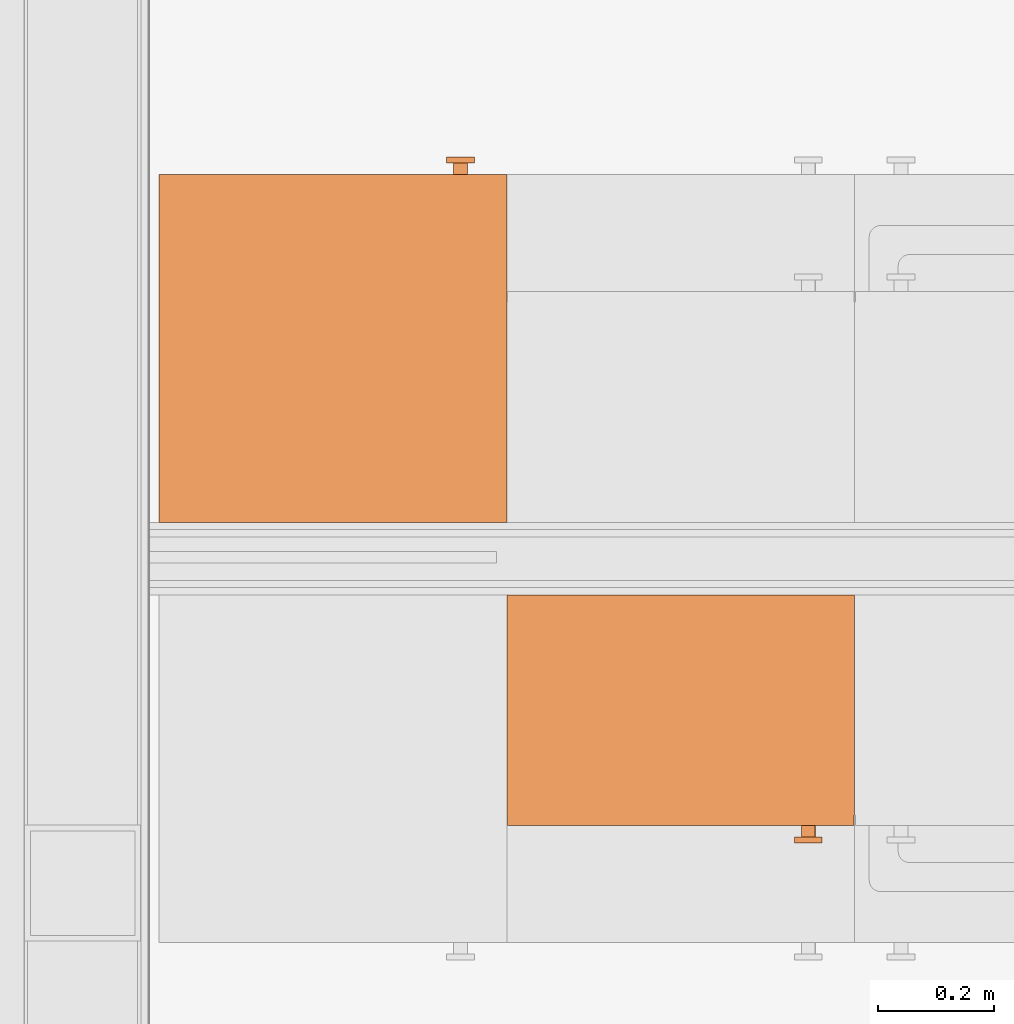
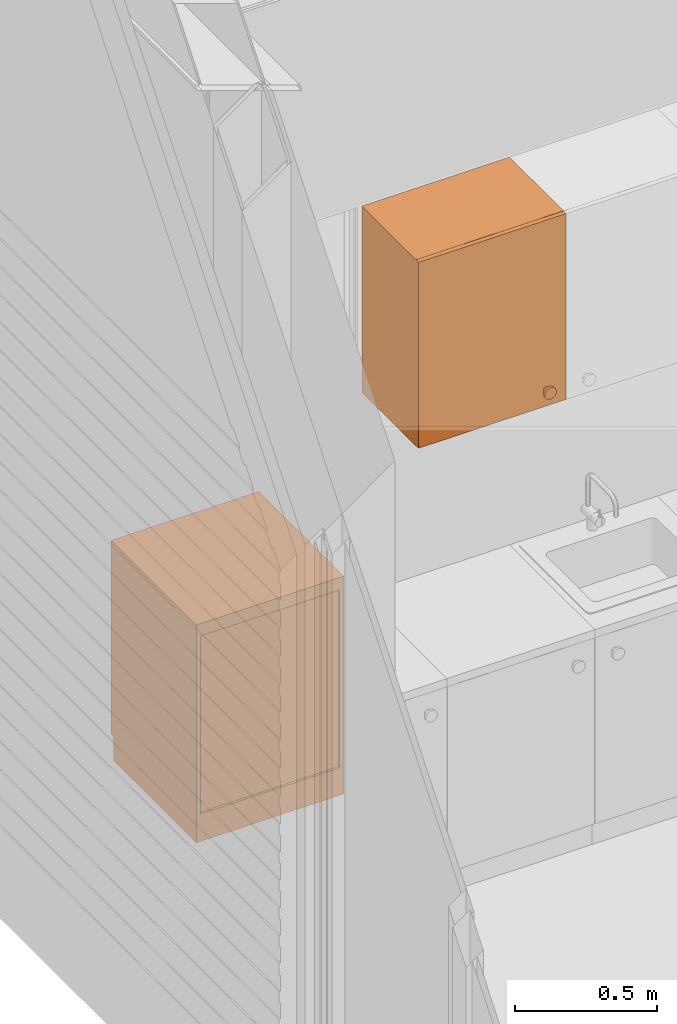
# One storey, part 128 of 165: 2 proxies.
"""IFC2X3 building model written with IfcOpenShell, lengths in millimetres."""

from ifc_helpers import new_model, entity, si_unit, converted_unit, derived_unit, money_unit, direction, frame, origin_with_axes, place, context, subcontext, project, spatial, faceted_brep, source, transform, mapped, type_object, type_shapes, element, save


model = new_model("IFC2X3")

# Units and contexts
model_context = context("Model", 3, precision=0.01, world=origin_with_axes(), true_north=direction((0.0, 1.0)))
body_context = subcontext(model_context, "Body", "Model", "MODEL_VIEW")
ifc_project = project(units=[si_unit("LENGTHUNIT", "METRE", prefix="MILLI"), si_unit("AREAUNIT", "SQUARE_METRE"), si_unit("VOLUMEUNIT", "CUBIC_METRE"), converted_unit("PLANEANGLEUNIT", "DEGREE", entity("IfcPlaneAngleMeasure", 0.0174532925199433), si_unit("PLANEANGLEUNIT", "RADIAN"), dimensions=[0, 0, 0, 0, 0, 0, 0]), money_unit("EUR"), converted_unit("TIMEUNIT", "Year", entity("IfcTimeMeasure", 31556926.0), si_unit("TIMEUNIT", "SECOND"), dimensions=[0, 0, 1, 0, 0, 0, 0]), si_unit("MASSUNIT", "GRAM", prefix="KILO"), si_unit("THERMODYNAMICTEMPERATUREUNIT", "DEGREE_CELSIUS"), si_unit("LUMINOUSINTENSITYUNIT", "LUMEN"), si_unit("ENERGYUNIT", "JOULE", prefix="MEGA"), derived_unit("THERMALCONDUCTANCEUNIT", [(si_unit("POWERUNIT", "WATT"), 1), (si_unit("LENGTHUNIT", "METRE"), -1), (si_unit("THERMODYNAMICTEMPERATUREUNIT", "KELVIN"), -1)]), derived_unit("SPECIFICHEATCAPACITYUNIT", [(si_unit("ENERGYUNIT", "JOULE"), 1), (si_unit("MASSUNIT", "GRAM", prefix="KILO"), -1), (si_unit("THERMODYNAMICTEMPERATUREUNIT", "KELVIN"), -1)]), derived_unit("MASSDENSITYUNIT", [(si_unit("MASSUNIT", "GRAM", prefix="KILO"), 1), (si_unit("VOLUMEUNIT", "CUBIC_METRE"), -1)])], contexts=[model_context])

# Site, building, storey
site_placement = place(None, origin_with_axes())
site = spatial("IfcSite", under=ifc_project, at=site_placement, Name="Site", CompositionType="ELEMENT")
building_placement = place(site_placement, origin_with_axes())
building = spatial("IfcBuilding", under=site, at=building_placement, Name="Naam gebouw", CompositionType="ELEMENT")
storey_placement = place(building_placement, origin_with_axes())
storey = spatial("IfcBuildingStorey", under=building, at=storey_placement, Name="Begane grond", CompositionType="ELEMENT", Elevation=0.0)

# Proxies
building_element_proxy_type_1 = type_object("IfcBuildingElementProxyType", Name="Onderkast recht 26", PredefinedType="NOTDEFINED")
shared_shape_1 = source(origin_with_axes(), body_context, "Body", "Brep", [
    faceted_brep([(0.0, -600.0, 900.0), (0.0, -600.0, 935.0), (-600.0, -600.0, 935.0), (-600.0, -600.0, 900.0), (0.0, 0.0, 900.0), (0.0, 0.0, 935.0), (-600.0, 0.0, 935.0), (-600.0, 0.0, 900.0)], [[[0, 1, 2, 3]], [[4, 5, 1, 0]], [[1, 5, 6, 2]], [[3, 2, 6, 7]], [[0, 3, 7, 4]], [[7, 6, 5, 4]]]),
    faceted_brep([(-531.8176930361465, -600.0, 816.9162218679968), (-532.0, -600.0, 819.0), (-531.8176930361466, -600.0, 821.0837781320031), (-531.2763114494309, -600.0, 823.1042417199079), (-530.3923048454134, -600.0, 825.0), (-529.1925333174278, -600.0, 826.7134513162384), (-527.7134513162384, -600.0, 828.1925333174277), (-526.0, -600.0, 829.3923048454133), (-524.104241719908, -600.0, 830.2763114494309), (-522.0837781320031, -600.0, 830.8176930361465), (-520.0, -600.0, 831.0), (-517.9162218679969, -600.0, 830.8176930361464), (-515.8957582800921, -600.0, 830.2763114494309), (-514.0, -600.0, 829.3923048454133), (-512.2865486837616, -600.0, 828.1925333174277), (-510.8074666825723, -600.0, 826.7134513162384), (-509.6076951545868, -600.0, 825.0), (-508.7236885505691, -600.0, 823.1042417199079), (-508.1823069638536, -600.0, 821.0837781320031), (-508.0, -600.0, 819.0), (-508.1823069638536, -600.0, 816.9162218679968), (-508.7236885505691, -600.0, 814.895758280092), (-509.6076951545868, -600.0, 813.0), (-510.8074666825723, -600.0, 811.2865486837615), (-512.2865486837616, -600.0, 809.8074666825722), (-514.0, -600.0, 808.6076951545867), (-515.8957582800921, -600.0, 807.7236885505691), (-517.9162218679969, -600.0, 807.1823069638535), (-520.0, -600.0, 806.9999999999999), (-522.0837781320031, -600.0, 807.1823069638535), (-524.104241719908, -600.0, 807.7236885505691), (-526.0, -600.0, 808.6076951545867), (-527.7134513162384, -600.0, 809.8074666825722), (-529.1925333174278, -600.0, 811.2865486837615), (-530.3923048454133, -600.0, 813.0), (-531.2763114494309, -600.0, 814.895758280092), (-531.8176930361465, -620.0, 816.9162218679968), (-532.0, -620.0, 819.0), (-531.8176930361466, -620.0, 821.0837781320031), (-531.2763114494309, -620.0, 823.1042417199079), (-530.3923048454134, -620.0, 825.0), (-529.1925333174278, -620.0, 826.7134513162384), (-527.7134513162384, -620.0, 828.1925333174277), (-526.0, -620.0, 829.3923048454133), (-524.104241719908, -620.0, 830.2763114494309), (-522.0837781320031, -620.0, 830.8176930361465), (-520.0, -620.0, 831.0), (-517.9162218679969, -620.0, 830.8176930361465), (-515.8957582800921, -620.0, 830.2763114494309), (-514.0, -620.0, 829.3923048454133), (-512.2865486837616, -620.0, 828.1925333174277), (-510.8074666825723, -620.0, 826.7134513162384), (-509.6076951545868, -620.0, 825.0), (-508.7236885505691, -620.0, 823.1042417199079), (-508.1823069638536, -620.0, 821.0837781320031), (-508.0, -620.0, 819.0), (-508.1823069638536, -620.0, 816.9162218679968), (-508.7236885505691, -620.0, 814.895758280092), (-509.6076951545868, -620.0, 813.0), (-510.8074666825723, -620.0, 811.2865486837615), (-512.2865486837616, -620.0, 809.8074666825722), (-514.0, -620.0, 808.6076951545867), (-515.8957582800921, -620.0, 807.7236885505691), (-517.9162218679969, -620.0, 807.1823069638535), (-520.0, -620.0, 806.9999999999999), (-522.0837781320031, -620.0, 807.1823069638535), (-524.104241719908, -620.0, 807.7236885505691), (-526.0, -620.0, 808.6076951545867), (-527.7134513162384, -620.0, 809.8074666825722), (-529.1925333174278, -620.0, 811.2865486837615), (-530.3923048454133, -620.0, 813.0), (-531.2763114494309, -620.0, 814.895758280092)], [[[0, 1, 2, 3, 4, 5, 6, 7, 8, 9, 10, 11, 12, 13, 14, 15, 16, 17, 18, 19, 20, 21, 22, 23, 24, 25, 26, 27, 28, 29, 30, 31, 32, 33, 34, 35]], [[0, 36, 37, 1]], [[1, 37, 38, 2]], [[2, 38, 39, 3]], [[3, 39, 40, 4]], [[4, 40, 41, 5]], [[5, 41, 42, 6]], [[6, 42, 43, 7]], [[7, 43, 44, 8]], [[8, 44, 45, 9]], [[9, 45, 46, 10]], [[10, 46, 47, 11]], [[11, 47, 48, 12]], [[12, 48, 49, 13]], [[13, 49, 50, 14]], [[14, 50, 51, 15]], [[15, 51, 52, 16]], [[16, 52, 53, 17]], [[17, 53, 54, 18]], [[18, 54, 55, 19]], [[19, 55, 56, 20]], [[20, 56, 57, 21]], [[21, 57, 58, 22]], [[22, 58, 59, 23]], [[23, 59, 60, 24]], [[24, 60, 61, 25]], [[25, 61, 62, 26]], [[26, 62, 63, 27]], [[27, 63, 64, 28]], [[28, 64, 65, 29]], [[29, 65, 66, 30]], [[30, 66, 67, 31]], [[31, 67, 68, 32]], [[32, 68, 69, 33]], [[33, 69, 70, 34]], [[34, 70, 71, 35]], [[35, 71, 36, 0]], [[36, 71, 70, 69, 68, 67, 66, 65, 64, 63, 62, 61, 60, 59, 58, 57, 56, 55, 54, 53, 52, 51, 50, 49, 48, 47, 46, 45, 44, 43, 42, 41, 40, 39, 38, 37]]]),
    faceted_brep([(-543.635386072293, -620.0, 814.8324437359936), (-544.0, -620.0, 819.0), (-543.635386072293, -620.0, 823.1675562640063), (-542.5526228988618, -620.0, 827.2084834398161), (-540.7846096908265, -620.0, 831.0), (-538.3850666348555, -620.0, 834.4269026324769), (-535.426902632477, -620.0, 837.3850666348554), (-532.0, -620.0, 839.7846096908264), (-528.2084834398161, -620.0, 841.5526228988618), (-524.1675562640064, -620.0, 842.6353860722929), (-520.0, -620.0, 843.0), (-515.8324437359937, -620.0, 842.6353860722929), (-511.7915165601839, -620.0, 841.5526228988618), (-508.0, -620.0, 839.7846096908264), (-504.5730973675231, -620.0, 837.3850666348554), (-501.6149333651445, -620.0, 834.4269026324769), (-499.2153903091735, -620.0, 831.0), (-497.4473771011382, -620.0, 827.2084834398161), (-496.364613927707, -620.0, 823.1675562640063), (-496.0000000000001, -620.0, 819.0), (-496.364613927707, -620.0, 814.8324437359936), (-497.4473771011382, -620.0, 810.7915165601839), (-499.2153903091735, -620.0, 806.9999999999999), (-501.6149333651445, -620.0, 803.573097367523), (-504.5730973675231, -620.0, 800.6149333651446), (-508.0, -620.0, 798.2153903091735), (-511.7915165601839, -620.0, 796.4473771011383), (-515.8324437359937, -620.0, 795.364613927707), (-520.0, -620.0, 794.9999999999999), (-524.1675562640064, -620.0, 795.364613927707), (-528.2084834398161, -620.0, 796.4473771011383), (-532.0, -620.0, 798.2153903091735), (-535.426902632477, -620.0, 800.6149333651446), (-538.3850666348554, -620.0, 803.573097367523), (-540.7846096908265, -620.0, 806.9999999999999), (-542.5526228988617, -620.0, 810.7915165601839), (-543.635386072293, -630.0, 814.8324437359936), (-544.0, -630.0, 819.0), (-543.635386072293, -630.0, 823.1675562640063), (-542.5526228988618, -630.0, 827.2084834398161), (-540.7846096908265, -630.0, 831.0), (-538.3850666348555, -630.0, 834.4269026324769), (-535.426902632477, -630.0, 837.3850666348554), (-532.0, -630.0, 839.7846096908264), (-528.2084834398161, -630.0, 841.5526228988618), (-524.1675562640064, -630.0, 842.6353860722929), (-520.0, -630.0, 843.0), (-515.8324437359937, -630.0, 842.6353860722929), (-511.7915165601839, -630.0, 841.5526228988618), (-508.0, -630.0, 839.7846096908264), (-504.5730973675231, -630.0, 837.3850666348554), (-501.6149333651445, -630.0, 834.4269026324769), (-499.2153903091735, -630.0, 831.0), (-497.4473771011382, -630.0, 827.2084834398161), (-496.364613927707, -630.0, 823.1675562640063), (-496.0000000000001, -630.0, 819.0), (-496.364613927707, -630.0, 814.8324437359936), (-497.4473771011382, -630.0, 810.7915165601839), (-499.2153903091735, -630.0, 806.9999999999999), (-501.6149333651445, -630.0, 803.573097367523), (-504.5730973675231, -630.0, 800.6149333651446), (-508.0, -630.0, 798.2153903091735), (-511.7915165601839, -630.0, 796.4473771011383), (-515.8324437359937, -630.0, 795.364613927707), (-520.0, -630.0, 794.9999999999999), (-524.1675562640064, -630.0, 795.364613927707), (-528.2084834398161, -630.0, 796.4473771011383), (-532.0, -630.0, 798.2153903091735), (-535.426902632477, -630.0, 800.6149333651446), (-538.3850666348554, -630.0, 803.573097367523), (-540.7846096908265, -630.0, 806.9999999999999), (-542.5526228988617, -630.0, 810.7915165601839)], [[[0, 1, 2, 3, 4, 5, 6, 7, 8, 9, 10, 11, 12, 13, 14, 15, 16, 17, 18, 19, 20, 21, 22, 23, 24, 25, 26, 27, 28, 29, 30, 31, 32, 33, 34, 35]], [[0, 36, 37, 1]], [[1, 37, 38, 2]], [[2, 38, 39, 3]], [[3, 39, 40, 4]], [[4, 40, 41, 5]], [[5, 41, 42, 6]], [[6, 42, 43, 7]], [[7, 43, 44, 8]], [[8, 44, 45, 9]], [[9, 45, 46, 10]], [[10, 46, 47, 11]], [[11, 47, 48, 12]], [[12, 48, 49, 13]], [[13, 49, 50, 14]], [[14, 50, 51, 15]], [[15, 51, 52, 16]], [[16, 52, 53, 17]], [[17, 53, 54, 18]], [[18, 54, 55, 19]], [[19, 55, 56, 20]], [[20, 56, 57, 21]], [[21, 57, 58, 22]], [[22, 58, 59, 23]], [[23, 59, 60, 24]], [[24, 60, 61, 25]], [[25, 61, 62, 26]], [[26, 62, 63, 27]], [[27, 63, 64, 28]], [[28, 64, 65, 29]], [[29, 65, 66, 30]], [[30, 66, 67, 31]], [[31, 67, 68, 32]], [[32, 68, 69, 33]], [[33, 69, 70, 34]], [[34, 70, 71, 35]], [[35, 71, 36, 0]], [[36, 71, 70, 69, 68, 67, 66, 65, 64, 63, 62, 61, 60, 59, 58, 57, 56, 55, 54, 53, 52, 51, 50, 49, 48, 47, 46, 45, 44, 43, 42, 41, 40, 39, 38, 37]]]),
    faceted_brep([(-1.0, -582.0, 101.0), (-1.0, -600.0, 101.0), (-599.0, -600.0, 101.0), (-599.0, -582.0, 101.0), (-1.0, -582.0, 899.0), (-1.0, -599.9999999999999, 899.0), (-599.0, -599.9999999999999, 899.0), (-599.0, -582.0, 899.0)], [[[0, 1, 2, 3]], [[4, 5, 1, 0]], [[1, 5, 6, 2]], [[3, 2, 6, 7]], [[0, 3, 7, 4]], [[7, 6, 5, 4]]]),
    faceted_brep([(-18.0, -582.0, 100.0), (-18.0, -582.0, 118.0), (-582.0, -582.0, 118.0), (-582.0, -582.0, 100.0), (-18.0, 0.0, 100.0), (-18.0, 0.0, 118.0), (-582.0, 0.0, 118.0), (-582.0, 0.0, 100.0)], [[[0, 1, 2, 3]], [[4, 5, 1, 0]], [[1, 5, 6, 2]], [[3, 2, 6, 7]], [[0, 3, 7, 4]], [[7, 6, 5, 4]]]),
    faceted_brep([(-18.0, -582.0, 882.0), (-582.0, -582.0, 882.0), (-582.0, -522.0, 882.0), (-18.0, -522.0, 882.0), (-18.0, -582.0, 900.0), (-582.0, -582.0, 900.0), (-582.0, -522.0, 900.0), (-18.0, -522.0, 900.0)], [[[0, 1, 2, 3]], [[4, 5, 1, 0]], [[1, 5, 6, 2]], [[3, 2, 6, 7]], [[0, 3, 7, 4]], [[7, 6, 5, 4]]]),
    faceted_brep([(-582.0, 0.0, 882.0), (-18.0, 0.0, 882.0), (-18.0, -60.0, 882.0), (-582.0, -60.0, 882.0), (-582.0, 0.0, 900.0), (-18.0, 0.0, 900.0), (-18.0, -60.0, 900.0), (-582.0, -60.0, 900.0)], [[[0, 1, 2, 3]], [[4, 5, 1, 0]], [[1, 5, 6, 2]], [[3, 2, 6, 7]], [[0, 3, 7, 4]], [[7, 6, 5, 4]]]),
    faceted_brep([(0.0, 0.0, 100.0), (0.0, 0.0, 900.0), (0.0, -582.0, 900.0), (0.0, -582.0, 100.0), (-18.0, 0.0, 100.0), (-18.0, 0.0, 900.0), (-18.0, -582.0, 900.0), (-18.0, -582.0, 100.0)], [[[0, 1, 2, 3]], [[4, 5, 1, 0]], [[1, 5, 6, 2]], [[3, 2, 6, 7]], [[0, 3, 7, 4]], [[7, 6, 5, 4]]]),
    faceted_brep([(-600.0, -582.0, 100.0), (-600.0, -582.0, 900.0), (-600.0, 0.0, 900.0), (-600.0, 0.0, 100.0), (-582.0, -582.0, 100.0), (-582.0, -582.0, 900.0), (-582.0, 0.0, 900.0), (-582.0, 0.0, 100.0)], [[[0, 1, 2, 3]], [[4, 5, 1, 0]], [[1, 5, 6, 2]], [[3, 2, 6, 7]], [[0, 3, 7, 4]], [[7, 6, 5, 4]]]),
    faceted_brep([(-582.0, -9.0, 118.0), (-582.0, -9.0, 882.0), (-18.00000000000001, -9.0, 882.0), (-18.00000000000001, -9.0, 118.0), (-582.0, -18.0, 118.0), (-582.0, -18.0, 882.0), (-18.00000000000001, -18.0, 882.0), (-18.00000000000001, -18.0, 118.0)], [[[0, 1, 2, 3]], [[4, 5, 1, 0]], [[1, 5, 6, 2]], [[3, 2, 6, 7]], [[0, 3, 7, 4]], [[7, 6, 5, 4]]]),
    faceted_brep([(0.0, -582.0, 0.0), (0.0, -582.0, 100.0), (-600.0, -582.0, 100.0), (-600.0, -582.0, 0.0), (0.0, 0.0, 0.0), (0.0, 0.0, 100.0), (-600.0, 0.0, 100.0), (-600.0, 0.0, 0.0)], [[[0, 1, 2, 3]], [[4, 5, 1, 0]], [[1, 5, 6, 2]], [[3, 2, 6, 7]], [[0, 3, 7, 4]], [[7, 6, 5, 4]]]),
])
type_shapes(building_element_proxy_type_1, [shared_shape_1])
proxy_1_placement = place(storey_placement, frame((232.0005705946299, 11432.51728030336, 0.0), z_axis=(0.0, 0.0, 1.0), x_axis=(-0.9999999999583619, -9.125581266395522e-06, 0.0)))
element("IfcBuildingElementProxy", 1, at=proxy_1_placement, inside=storey, type_object=building_element_proxy_type_1, Name="_Leeg", context=body_context, shape_type="MappedRepresentation", body=[
    mapped(shared_shape_1, transform((0.0, 0.0, 0.0))),
])
building_element_proxy_type_2 = type_object("IfcBuildingElementProxyType", Name="Bovenkast recht 26", PredefinedType="NOTDEFINED")
shared_shape_2 = source(origin_with_axes(), body_context, "Body", "Brep", [
    faceted_brep([(18.0, -380.0, 1891.0), (582.0, -380.0, 1891.0), (582.0, -380.0, 1909.0), (18.0, -380.0, 1909.0), (18.0, -18.0, 1891.0), (582.0, -18.0, 1891.0), (582.0, -18.0, 1909.0), (18.0, -18.0, 1909.0)], [[[0, 1, 2, 3]], [[0, 4, 5, 1]], [[1, 5, 6, 2]], [[3, 2, 6, 7]], [[4, 0, 3, 7]], [[5, 4, 7, 6]]]),
    faceted_brep([(531.8176930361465, -398.0, 1570.916221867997), (531.2763114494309, -398.0, 1568.895758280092), (530.3923048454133, -398.0, 1567.0), (529.1925333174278, -398.0, 1565.286548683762), (527.7134513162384, -398.0, 1563.807466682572), (526.0, -398.0, 1562.607695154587), (524.104241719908, -398.0, 1561.723688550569), (522.0837781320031, -398.0, 1561.182306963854), (520.0, -398.0, 1561.0), (517.9162218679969, -398.0, 1561.182306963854), (515.8957582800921, -398.0, 1561.723688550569), (514.0, -398.0, 1562.607695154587), (512.2865486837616, -398.0, 1563.807466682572), (510.8074666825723, -398.0, 1565.286548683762), (509.6076951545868, -398.0, 1567.0), (508.7236885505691, -398.0, 1568.895758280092), (508.1823069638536, -398.0, 1570.916221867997), (508.0, -398.0, 1573.0), (508.1823069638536, -398.0, 1575.083778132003), (508.7236885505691, -398.0, 1577.104241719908), (509.6076951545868, -398.0, 1579.0), (510.8074666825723, -398.0, 1580.713451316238), (512.2865486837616, -398.0, 1582.192533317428), (514.0, -398.0, 1583.392304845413), (515.8957582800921, -398.0, 1584.276311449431), (517.9162218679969, -398.0, 1584.817693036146), (520.0, -398.0, 1585.0), (522.0837781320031, -398.0, 1584.817693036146), (524.104241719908, -398.0, 1584.276311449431), (526.0, -398.0, 1583.392304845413), (527.7134513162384, -398.0, 1582.192533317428), (529.1925333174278, -398.0, 1580.713451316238), (530.3923048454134, -398.0, 1579.0), (531.2763114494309, -398.0, 1577.104241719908), (531.8176930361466, -398.0, 1575.083778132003), (532.0, -398.0, 1573.0), (531.8176930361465, -418.0000000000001, 1570.916221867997), (531.2763114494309, -418.0000000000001, 1568.895758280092), (530.3923048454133, -418.0000000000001, 1567.0), (529.1925333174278, -418.0000000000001, 1565.286548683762), (527.7134513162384, -418.0000000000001, 1563.807466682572), (526.0, -418.0000000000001, 1562.607695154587), (524.104241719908, -418.0000000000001, 1561.723688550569), (522.0837781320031, -418.0000000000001, 1561.182306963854), (520.0, -418.0000000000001, 1561.0), (517.9162218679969, -418.0000000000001, 1561.182306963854), (515.8957582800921, -418.0000000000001, 1561.723688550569), (514.0, -418.0000000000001, 1562.607695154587), (512.2865486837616, -418.0000000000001, 1563.807466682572), (510.8074666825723, -418.0000000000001, 1565.286548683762), (509.6076951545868, -418.0000000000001, 1567.0), (508.7236885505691, -418.0000000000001, 1568.895758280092), (508.1823069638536, -418.0000000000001, 1570.916221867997), (508.0, -418.0000000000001, 1573.0), (508.1823069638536, -418.0000000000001, 1575.083778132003), (508.7236885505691, -418.0000000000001, 1577.104241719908), (509.6076951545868, -418.0000000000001, 1579.0), (510.8074666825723, -418.0000000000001, 1580.713451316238), (512.2865486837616, -418.0000000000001, 1582.192533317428), (514.0, -418.0000000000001, 1583.392304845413), (515.8957582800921, -418.0000000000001, 1584.276311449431), (517.9162218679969, -418.0000000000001, 1584.817693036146), (520.0, -418.0000000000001, 1585.0), (522.0837781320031, -418.0000000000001, 1584.817693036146), (524.104241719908, -418.0000000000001, 1584.276311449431), (526.0, -418.0000000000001, 1583.392304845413), (527.7134513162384, -418.0000000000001, 1582.192533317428), (529.1925333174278, -418.0000000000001, 1580.713451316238), (530.3923048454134, -418.0000000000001, 1579.0), (531.2763114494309, -418.0000000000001, 1577.104241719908), (531.8176930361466, -418.0000000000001, 1575.083778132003), (532.0, -418.0000000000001, 1573.0)], [[[0, 1, 2, 3, 4, 5, 6, 7, 8, 9, 10, 11, 12, 13, 14, 15, 16, 17, 18, 19, 20, 21, 22, 23, 24, 25, 26, 27, 28, 29, 30, 31, 32, 33, 34, 35]], [[1, 0, 36, 37]], [[2, 1, 37, 38]], [[3, 2, 38, 39]], [[4, 3, 39, 40]], [[5, 4, 40, 41]], [[6, 5, 41, 42]], [[7, 6, 42, 43]], [[8, 7, 43, 44]], [[9, 8, 44, 45]], [[10, 9, 45, 46]], [[11, 10, 46, 47]], [[12, 11, 47, 48]], [[13, 12, 48, 49]], [[14, 13, 49, 50]], [[15, 14, 50, 51]], [[16, 15, 51, 52]], [[17, 16, 52, 53]], [[18, 17, 53, 54]], [[19, 18, 54, 55]], [[20, 19, 55, 56]], [[21, 20, 56, 57]], [[22, 21, 57, 58]], [[23, 22, 58, 59]], [[24, 23, 59, 60]], [[25, 24, 60, 61]], [[26, 25, 61, 62]], [[27, 26, 62, 63]], [[28, 27, 63, 64]], [[29, 28, 64, 65]], [[30, 29, 65, 66]], [[31, 30, 66, 67]], [[32, 31, 67, 68]], [[33, 32, 68, 69]], [[34, 33, 69, 70]], [[35, 34, 70, 71]], [[0, 35, 71, 36]], [[36, 71, 70, 69, 68, 67, 66, 65, 64, 63, 62, 61, 60, 59, 58, 57, 56, 55, 54, 53, 52, 51, 50, 49, 48, 47, 46, 45, 44, 43, 42, 41, 40, 39, 38, 37]]]),
    faceted_brep([(543.635386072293, -418.0000000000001, 1568.832443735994), (542.5526228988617, -418.0000000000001, 1564.791516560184), (540.7846096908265, -418.0000000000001, 1561.0), (538.3850666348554, -418.0000000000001, 1557.573097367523), (535.426902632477, -418.0000000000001, 1554.614933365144), (532.0, -418.0000000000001, 1552.215390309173), (528.2084834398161, -418.0000000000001, 1550.447377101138), (524.1675562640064, -418.0000000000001, 1549.364613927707), (520.0, -418.0000000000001, 1549.0), (515.8324437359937, -418.0000000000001, 1549.364613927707), (511.7915165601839, -418.0000000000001, 1550.447377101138), (508.0, -418.0000000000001, 1552.215390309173), (504.5730973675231, -418.0000000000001, 1554.614933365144), (501.6149333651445, -418.0000000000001, 1557.573097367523), (499.2153903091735, -418.0000000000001, 1561.0), (497.4473771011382, -418.0000000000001, 1564.791516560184), (496.364613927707, -418.0000000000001, 1568.832443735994), (496.0000000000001, -418.0000000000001, 1573.0), (496.364613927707, -418.0000000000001, 1577.167556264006), (497.4473771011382, -418.0000000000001, 1581.208483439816), (499.2153903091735, -418.0000000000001, 1585.0), (501.6149333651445, -418.0000000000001, 1588.426902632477), (504.5730973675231, -418.0000000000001, 1591.385066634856), (508.0, -418.0000000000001, 1593.784609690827), (511.7915165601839, -418.0000000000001, 1595.552622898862), (515.8324437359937, -418.0000000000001, 1596.635386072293), (520.0, -418.0000000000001, 1597.0), (524.1675562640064, -418.0000000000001, 1596.635386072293), (528.2084834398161, -418.0000000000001, 1595.552622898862), (532.0, -418.0000000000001, 1593.784609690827), (535.426902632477, -418.0000000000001, 1591.385066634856), (538.3850666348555, -418.0000000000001, 1588.426902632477), (540.7846096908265, -418.0000000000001, 1585.0), (542.5526228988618, -418.0000000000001, 1581.208483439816), (543.635386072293, -418.0000000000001, 1577.167556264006), (544.0, -418.0000000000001, 1573.0), (543.635386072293, -428.0000000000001, 1568.832443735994), (542.5526228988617, -428.0000000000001, 1564.791516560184), (540.7846096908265, -428.0000000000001, 1561.0), (538.3850666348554, -428.0000000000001, 1557.573097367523), (535.426902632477, -428.0000000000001, 1554.614933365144), (532.0, -428.0000000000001, 1552.215390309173), (528.2084834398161, -428.0000000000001, 1550.447377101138), (524.1675562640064, -428.0000000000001, 1549.364613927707), (520.0, -428.0000000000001, 1549.0), (515.8324437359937, -428.0000000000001, 1549.364613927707), (511.7915165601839, -428.0000000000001, 1550.447377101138), (508.0, -428.0000000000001, 1552.215390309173), (504.5730973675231, -428.0000000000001, 1554.614933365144), (501.6149333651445, -428.0000000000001, 1557.573097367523), (499.2153903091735, -428.0000000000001, 1561.0), (497.4473771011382, -428.0000000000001, 1564.791516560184), (496.364613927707, -428.0000000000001, 1568.832443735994), (496.0000000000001, -428.0000000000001, 1573.0), (496.364613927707, -428.0000000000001, 1577.167556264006), (497.4473771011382, -428.0000000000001, 1581.208483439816), (499.2153903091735, -428.0000000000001, 1585.0), (501.6149333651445, -428.0000000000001, 1588.426902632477), (504.5730973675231, -428.0000000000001, 1591.385066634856), (508.0, -428.0000000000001, 1593.784609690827), (511.7915165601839, -428.0000000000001, 1595.552622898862), (515.8324437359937, -428.0000000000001, 1596.635386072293), (520.0, -428.0000000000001, 1597.0), (524.1675562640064, -428.0000000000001, 1596.635386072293), (528.2084834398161, -428.0000000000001, 1595.552622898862), (532.0, -428.0000000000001, 1593.784609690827), (535.426902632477, -428.0000000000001, 1591.385066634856), (538.3850666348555, -428.0000000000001, 1588.426902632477), (540.7846096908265, -428.0000000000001, 1585.0), (542.5526228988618, -428.0000000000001, 1581.208483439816), (543.635386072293, -428.0000000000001, 1577.167556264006), (544.0, -428.0000000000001, 1573.0)], [[[0, 1, 2, 3, 4, 5, 6, 7, 8, 9, 10, 11, 12, 13, 14, 15, 16, 17, 18, 19, 20, 21, 22, 23, 24, 25, 26, 27, 28, 29, 30, 31, 32, 33, 34, 35]], [[1, 0, 36, 37]], [[2, 1, 37, 38]], [[3, 2, 38, 39]], [[4, 3, 39, 40]], [[5, 4, 40, 41]], [[6, 5, 41, 42]], [[7, 6, 42, 43]], [[8, 7, 43, 44]], [[9, 8, 44, 45]], [[10, 9, 45, 46]], [[11, 10, 46, 47]], [[12, 11, 47, 48]], [[13, 12, 48, 49]], [[14, 13, 49, 50]], [[15, 14, 50, 51]], [[16, 15, 51, 52]], [[17, 16, 52, 53]], [[18, 17, 53, 54]], [[19, 18, 54, 55]], [[20, 19, 55, 56]], [[21, 20, 56, 57]], [[22, 21, 57, 58]], [[23, 22, 58, 59]], [[24, 23, 59, 60]], [[25, 24, 60, 61]], [[26, 25, 61, 62]], [[27, 26, 62, 63]], [[28, 27, 63, 64]], [[29, 28, 64, 65]], [[30, 29, 65, 66]], [[31, 30, 66, 67]], [[32, 31, 67, 68]], [[33, 32, 68, 69]], [[34, 33, 69, 70]], [[35, 34, 70, 71]], [[0, 35, 71, 36]], [[36, 71, 70, 69, 68, 67, 66, 65, 64, 63, 62, 61, 60, 59, 58, 57, 56, 55, 54, 53, 52, 51, 50, 49, 48, 47, 46, 45, 44, 43, 42, 41, 40, 39, 38, 37]]]),
    faceted_brep([(1.0, -380.0, 1501.0), (599.0, -380.0, 1501.0), (599.0, -398.0, 1501.0), (1.0, -398.0, 1501.0), (1.0, -379.9999999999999, 2299.0), (599.0, -379.9999999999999, 2299.0), (599.0, -397.9999999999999, 2299.0), (1.0, -397.9999999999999, 2299.0)], [[[0, 1, 2, 3]], [[0, 4, 5, 1]], [[1, 5, 6, 2]], [[3, 2, 6, 7]], [[4, 0, 3, 7]], [[5, 4, 7, 6]]]),
    faceted_brep([(18.0, -380.0, 1500.0), (582.0, -380.0, 1500.0), (582.0, -380.0, 1518.0), (18.0, -380.0, 1518.0), (18.0, 0.0, 1500.0), (582.0, 0.0, 1500.0), (582.0, 0.0, 1518.0), (18.0, 0.0, 1518.0)], [[[0, 1, 2, 3]], [[0, 4, 5, 1]], [[1, 5, 6, 2]], [[3, 2, 6, 7]], [[4, 0, 3, 7]], [[5, 4, 7, 6]]]),
    faceted_brep([(18.0, -380.0, 2282.0), (582.0, -380.0, 2282.0), (582.0, -380.0, 2300.0), (18.0, -380.0, 2300.0), (18.0, 0.0, 2282.0), (582.0, 0.0, 2282.0), (582.0, 0.0, 2300.0), (18.0, 0.0, 2300.0)], [[[0, 1, 2, 3]], [[0, 4, 5, 1]], [[1, 5, 6, 2]], [[3, 2, 6, 7]], [[4, 0, 3, 7]], [[5, 4, 7, 6]]]),
    faceted_brep([(0.0, 0.0, 1500.0), (0.0, -380.0, 1500.0), (0.0, -380.0, 2300.0), (0.0, 0.0, 2300.0), (18.0, 0.0, 1500.0), (18.0, -380.0, 1500.0), (18.0, -380.0, 2300.0), (18.0, 0.0, 2300.0)], [[[0, 1, 2, 3]], [[0, 4, 5, 1]], [[1, 5, 6, 2]], [[3, 2, 6, 7]], [[4, 0, 3, 7]], [[5, 4, 7, 6]]]),
    faceted_brep([(600.0, -380.0, 1500.0), (600.0, 0.0, 1500.0), (600.0, 0.0, 2300.0), (600.0, -380.0, 2300.0), (582.0, -380.0, 1500.0), (582.0, 0.0, 1500.0), (582.0, 0.0, 2300.0), (582.0, -380.0, 2300.0)], [[[0, 1, 2, 3]], [[0, 4, 5, 1]], [[1, 5, 6, 2]], [[3, 2, 6, 7]], [[4, 0, 3, 7]], [[5, 4, 7, 6]]]),
    faceted_brep([(582.0, -9.0, 1518.0), (18.00000000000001, -9.0, 1518.0), (18.00000000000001, -9.0, 2282.0), (582.0, -9.0, 2282.0), (582.0, -18.0, 1518.0), (18.00000000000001, -18.0, 1518.0), (18.00000000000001, -18.0, 2282.0), (582.0, -18.0, 2282.0)], [[[0, 1, 2, 3]], [[0, 4, 5, 1]], [[1, 5, 6, 2]], [[3, 2, 6, 7]], [[4, 0, 3, 7]], [[5, 4, 7, 6]]]),
])
type_shapes(building_element_proxy_type_2, [shared_shape_2])
proxy_2_placement = place(storey_placement, frame((832.0000007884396, 11307.51680037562, 300.0000000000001), z_axis=(0.0, 0.0, 1.0), x_axis=(0.9999999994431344, 3.337261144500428e-05, 0.0)))
element("IfcBuildingElementProxy", 2, at=proxy_2_placement, inside=storey, type_object=building_element_proxy_type_2, Name="_Leeg", context=body_context, shape_type="MappedRepresentation", body=[
    mapped(shared_shape_2, transform((0.0, 0.0, 0.0))),
])

save(model, "model.ifc")
